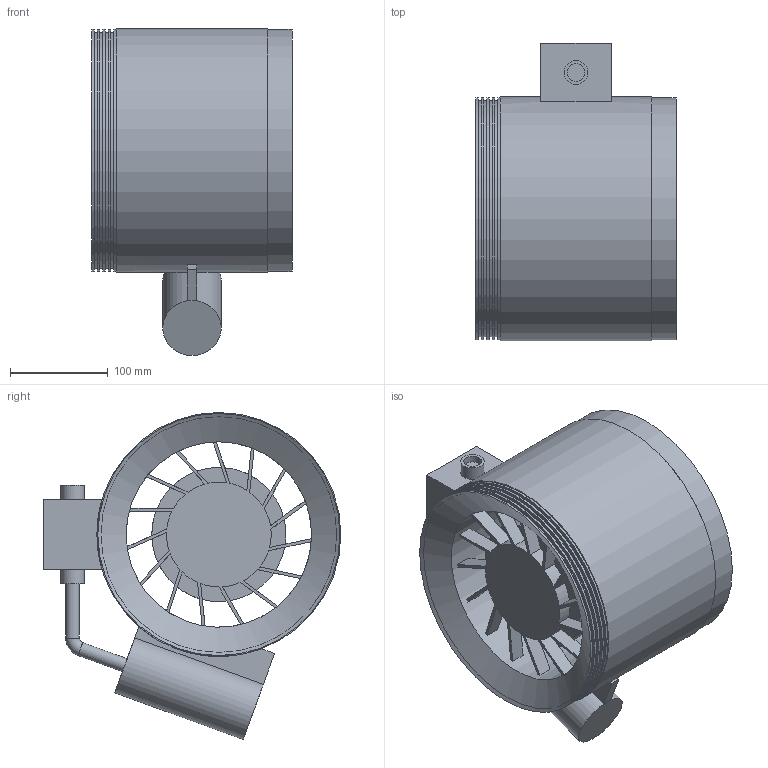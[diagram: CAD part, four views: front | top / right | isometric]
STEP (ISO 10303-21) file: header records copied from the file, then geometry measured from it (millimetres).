
FILE_DESCRIPTION(/* description */ (''),/* implementation_level */ '2;1');
FILE_NAME(/* name */ 'Z:\Output\RRK_250_EX-05891-003.stp',/* time_stamp */ '2020-06-26T10:11:09+02:00',/* author */ ('engineering1'),/* organization */ (''),/* preprocessor_version */ 'ST-DEVELOPER v17.2',/* originating_system */ 'Autodesk Inventor 2019',/* authorisation */ '');
FILE_SCHEMA (('AUTOMOTIVE_DESIGN { 1 0 10303 214 3 1 1 }'));
Length unit declared in the file: millimetre
Products named in the file (1): RRK-1
Bounding box: 205 x 305 x 335 mm (x, y, z)
Volume: 5266071.3 mm3; surface area: 465345.3 mm2
Topology: 2 solids, 2 shells, 146 faces, 367 edges, 241 vertices
Faces by surface type: plane 107, cylinder 37, cone 1, torus 1
Full cylindrical faces by diameter (mm): 14 x2, 18 x2, 24 x2, 60 x1, 107.333 x1, 137.333 x1, 241.75 x4, 248 x6, 250 x1
Entity records: 4969 total; most frequent: CARTESIAN_POINT 842, DIRECTION 826, ORIENTED_EDGE 792, EDGE_CURVE 396, VERTEX_POINT 299, AXIS2_PLACEMENT_3D 283, LINE 260, VECTOR 260
